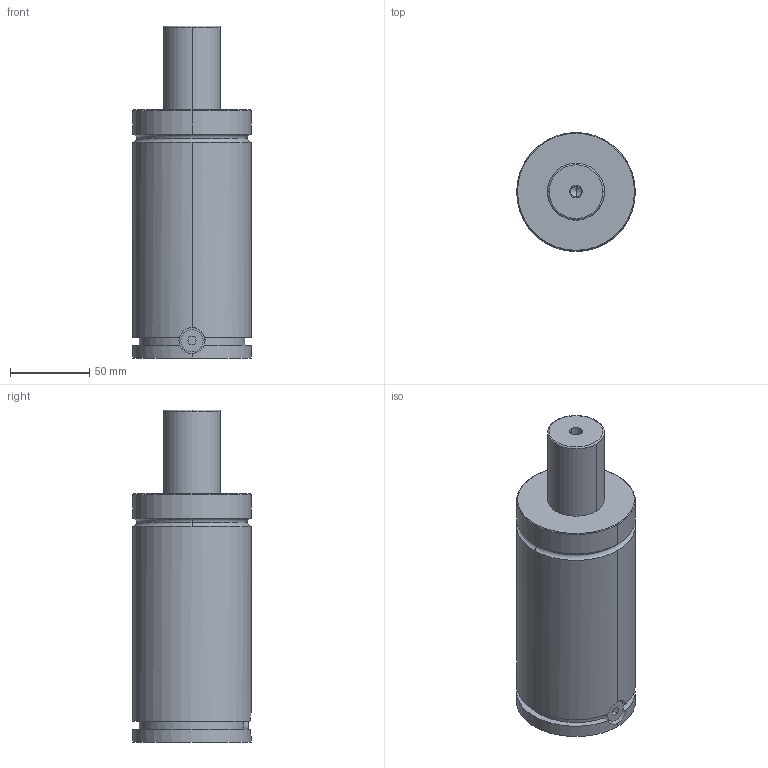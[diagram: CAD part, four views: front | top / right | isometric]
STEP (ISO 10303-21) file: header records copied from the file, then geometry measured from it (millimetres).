
FILE_DESCRIPTION( ( '' ), '1' );
FILE_NAME( 'W:/LIBRERIA TECAPRES®/DIBUJOS STRACK 2012/TPS/TPS 1500/TPS 1500x50.stp', '2012-05-15T13:08:55', ( '' ), ( '' ), ' ', ' ', ' ' );
FILE_SCHEMA( ( 'automotive_design' ) );
Length unit declared in the file: millimetre
Products named in the file (3): 1; 2; 3
Bounding box: 75 x 75 x 210 mm (x, y, z)
Volume: 686189.5 mm3; surface area: 64445.8 mm2
Topology: 3 solids, 3 shells, 68 faces, 152 edges, 98 vertices
Faces by surface type: cylinder 32, plane 24, torus 6, cone 6
Entity records: 3901 total; most frequent: CARTESIAN_POINT 473, DIRECTION 367, STYLED_ITEM 319, PRESENTATION_STYLE_ASSIGNMENT 319, COLOUR_RGB 319, ORIENTED_EDGE 300, AXIS2_PLACEMENT_3D 154, EDGE_CURVE 150
